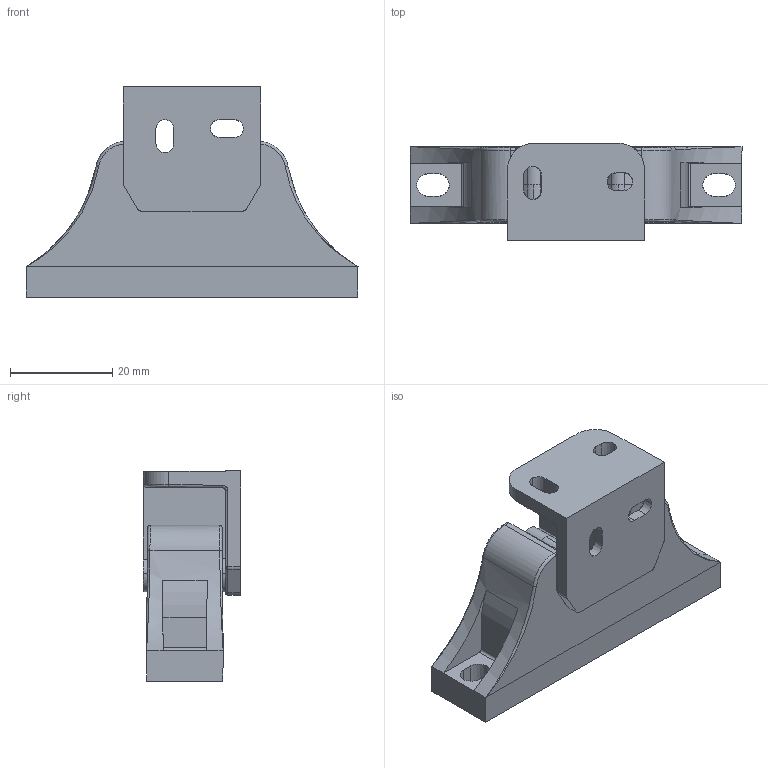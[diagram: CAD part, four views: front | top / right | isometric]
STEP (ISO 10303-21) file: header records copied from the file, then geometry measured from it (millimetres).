
FILE_DESCRIPTION (( 'STEP AP203' ), '1' );
FILE_NAME ('013.100.071.STEP', '2023-05-12T06:37:32', ( '' ), ( '' ), 'SwSTEP 2.0', 'SolidWorks 2021', '' );
FILE_SCHEMA (( 'CONFIG_CONTROL_DESIGN' ));
Length unit declared in the file: millimetre
Products named in the file (4): 013.100.071B; 013.100.071A; 013.100.071C; 013.100.071
Assembly tree (3 placements, depth 2):
  013.100.071
    013.100.071A
    013.100.071C
    013.100.071B
Bounding box: 65 x 19 x 41.17 mm (x, y, z)
Volume: 16421.8 mm3; surface area: 12571.7 mm2
Topology: 4 solids, 4 shells, 277 faces, 724 edges, 453 vertices
Faces by surface type: plane 121, cone 70, cylinder 64, bspline 22
Entity records: 9604 total; most frequent: CARTESIAN_POINT 2725, ORIENTED_EDGE 1440, DIRECTION 1269, EDGE_CURVE 720, VERTEX_POINT 453, AXIS2_PLACEMENT_3D 424, VECTOR 421, LINE 421
